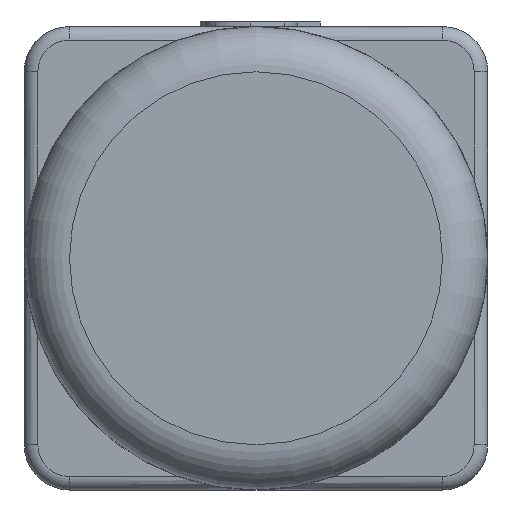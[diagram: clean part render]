
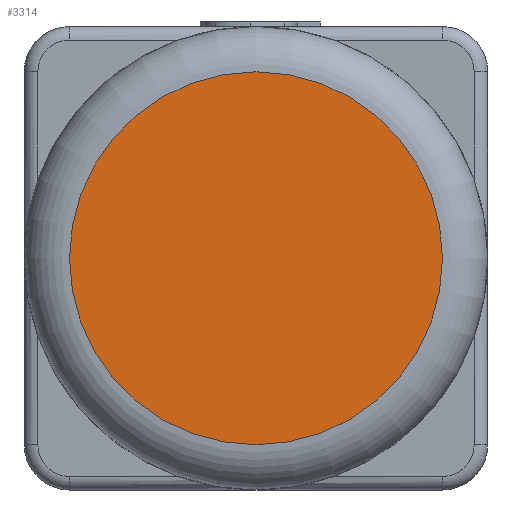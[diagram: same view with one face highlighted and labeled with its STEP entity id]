
A CAD part, front view. The second image highlights one B-rep face of the part: STEP entity #3314.
In plain terms, the highlighted planar face has unit normal (0, -1, 0).
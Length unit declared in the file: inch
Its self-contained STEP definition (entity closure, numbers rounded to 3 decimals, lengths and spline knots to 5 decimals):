
#319=PLANE('',#3492);
#1073=FACE_OUTER_BOUND('',#1267,.T.);
#1267=EDGE_LOOP('',(#3007,#3008));
#1322=CIRCLE('',#3486,0.04118);
#1323=CIRCLE('',#3487,0.04118);
#1635=VERTEX_POINT('',#6142);
#1636=VERTEX_POINT('',#6144);
#2099=EDGE_CURVE('',#1635,#1636,#1322,.T.);
#2100=EDGE_CURVE('',#1636,#1635,#1323,.T.);
#3007=ORIENTED_EDGE('',*,*,#2100,.F.);
#3008=ORIENTED_EDGE('',*,*,#2099,.F.);
#3314=ADVANCED_FACE('',(#1073),#319,.F.);
#3486=AXIS2_PLACEMENT_3D('',#6145,#4061,#4062);
#3487=AXIS2_PLACEMENT_3D('',#6146,#4063,#4064);
#3492=AXIS2_PLACEMENT_3D('',#6175,#4074,#4075);
#4061=DIRECTION('center_axis',(0.,1.,0.));
#4062=DIRECTION('ref_axis',(-1.,0.,0.));
#4063=DIRECTION('center_axis',(0.,1.,0.));
#4064=DIRECTION('ref_axis',(-1.,0.,0.));
#4074=DIRECTION('center_axis',(0.,1.,0.));
#4075=DIRECTION('ref_axis',(0.,0.,1.));
#6142=CARTESIAN_POINT('',(0.,-0.12008,-0.04118));
#6144=CARTESIAN_POINT('',(0.04118,-0.12008,0.));
#6145=CARTESIAN_POINT('Origin',(0.,-0.12008,0.));
#6146=CARTESIAN_POINT('Origin',(0.,-0.12008,0.));
#6175=CARTESIAN_POINT('Origin',(0.,-0.12008,
0.));
